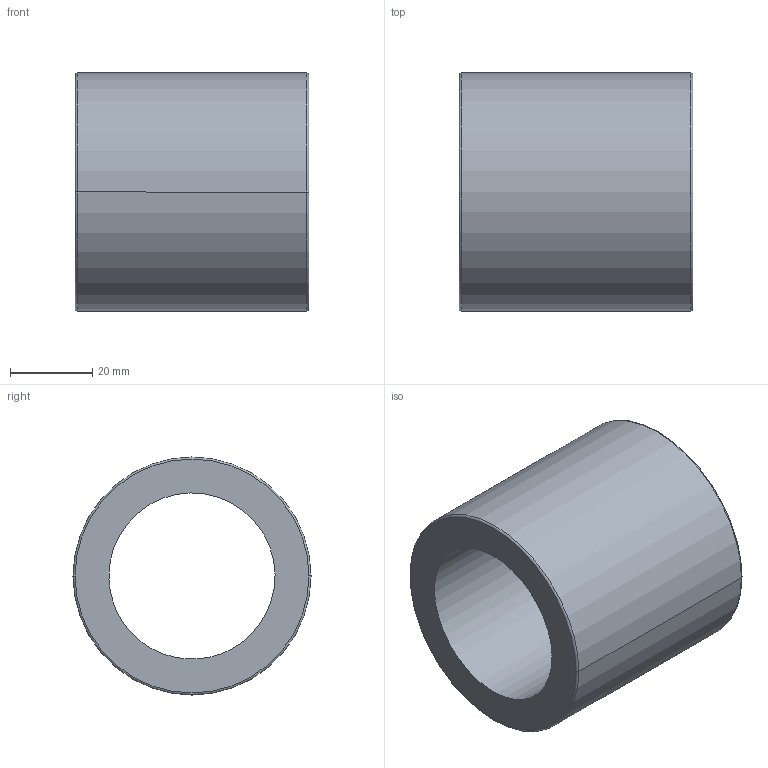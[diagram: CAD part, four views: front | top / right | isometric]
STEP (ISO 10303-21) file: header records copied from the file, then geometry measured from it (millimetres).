
FILE_DESCRIPTION(('CATIA V5 STEP Exchange'),'2;1');
FILE_NAME('C:\Users\aa\Documents\이댈\TM\STM\STM40.stp','2020-03-24T09:36:20+00:00',('none'),('none'),'CATIA Version 5 Release 20 SP 7 (IN-10)','CATIA V5 STEP AP203','none');
FILE_SCHEMA(('CONFIG_CONTROL_DESIGN'));
Length unit declared in the file: millimetre
Products named in the file (1): STM40
Bounding box: 57 x 58 x 58 mm (x, y, z)
Volume: 77148.9 mm3; surface area: 20267.7 mm2
Topology: 1 solids, 1 shells, 10 faces, 20 edges, 12 vertices
Faces by surface type: cylinder 4, torus 4, plane 2
Entity records: 322 total; most frequent: CARTESIAN_POINT 71, ORIENTED_EDGE 40, DIRECTION 38, AXIS2_PLACEMENT_3D 25, EDGE_CURVE 20, CIRCLE 14, EDGE_LOOP 12, VERTEX_POINT 12
